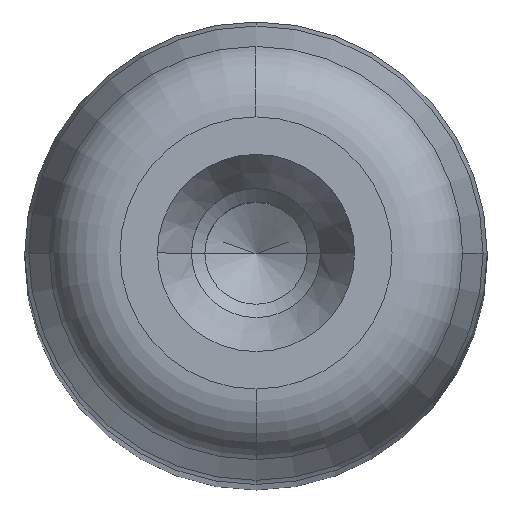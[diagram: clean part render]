
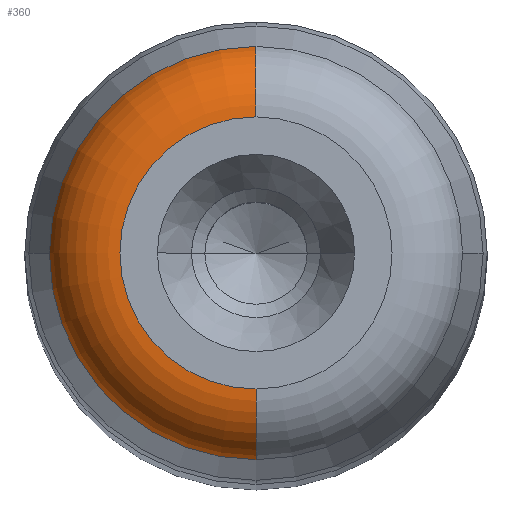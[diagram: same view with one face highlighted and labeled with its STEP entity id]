
A CAD part, top view. The second image highlights one B-rep face of the part: STEP entity #360.
In plain terms, the highlighted toroidal (fillet/blend) face has major radius 5.59 mm and minor radius 3 mm.
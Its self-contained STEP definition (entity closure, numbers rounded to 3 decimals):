
#308=CARTESIAN_POINT('',(0.0,137.,0.0));
#309=DIRECTION('',(0.0,1.0,0.0));
#310=DIRECTION('',(0.0,0.0,1.0));
#311=AXIS2_PLACEMENT_3D('',#308,#309,#310);
#312=TOROIDAL_SURFACE('',#311,5.59,3.0);
#313=CARTESIAN_POINT('',(0.0,140.,5.59));
#314=VERTEX_POINT('',#313);
#315=CARTESIAN_POINT('',(0.0,137.776,8.488));
#316=VERTEX_POINT('',#315);
#317=CARTESIAN_POINT('',(0.0,137.,5.59));
#318=DIRECTION('',(1.0,0.0,0.0));
#319=DIRECTION('',(0.0,0.0,1.0));
#320=AXIS2_PLACEMENT_3D('',#317,#318,#319);
#321=CIRCLE('',#320,3.);
#322=EDGE_CURVE('',#314,#316,#321,.T.);
#323=ORIENTED_EDGE('',*,*,#322,.F.);
#324=CARTESIAN_POINT('',(0.,140.,-5.59));
#325=VERTEX_POINT('',#324);
#326=CARTESIAN_POINT('',(0.0,140.,0.0));
#327=DIRECTION('',(0.0,1.0,0.0));
#328=DIRECTION('',(1.0,0.0,0.0));
#329=AXIS2_PLACEMENT_3D('',#326,#327,#328);
#330=CIRCLE('',#329,5.59);
#331=EDGE_CURVE('',#325,#314,#330,.T.);
#332=ORIENTED_EDGE('',*,*,#331,.F.);
#333=CARTESIAN_POINT('',(0.,137.776,-8.488));
#334=VERTEX_POINT('',#333);
#335=CARTESIAN_POINT('',(0.,137.,-5.59));
#336=DIRECTION('',(-1.0,0.0,0.0));
#337=DIRECTION('',(0.0,0.0,-1.0));
#338=AXIS2_PLACEMENT_3D('',#335,#336,#337);
#339=CIRCLE('',#338,3.);
#340=EDGE_CURVE('',#325,#334,#339,.T.);
#341=ORIENTED_EDGE('',*,*,#340,.T.);
#342=CARTESIAN_POINT('',(-8.488,137.776,0.));
#343=VERTEX_POINT('',#342);
#344=CARTESIAN_POINT('',(0.0,137.776,0.0));
#345=DIRECTION('',(0.0,1.0,0.0));
#346=DIRECTION('',(1.0,0.0,0.0));
#347=AXIS2_PLACEMENT_3D('',#344,#345,#346);
#348=CIRCLE('',#347,8.488);
#349=EDGE_CURVE('',#334,#343,#348,.T.);
#350=ORIENTED_EDGE('',*,*,#349,.T.);
#351=CARTESIAN_POINT('',(0.0,137.776,0.0));
#352=DIRECTION('',(0.0,1.0,0.0));
#353=DIRECTION('',(1.0,0.0,0.0));
#354=AXIS2_PLACEMENT_3D('',#351,#352,#353);
#355=CIRCLE('',#354,8.488);
#356=EDGE_CURVE('',#343,#316,#355,.T.);
#357=ORIENTED_EDGE('',*,*,#356,.T.);
#358=EDGE_LOOP('',(#323,#332,#341,#350,#357));
#359=FACE_OUTER_BOUND('',#358,.T.);
#360=ADVANCED_FACE('',(#359),#312,.T.);
